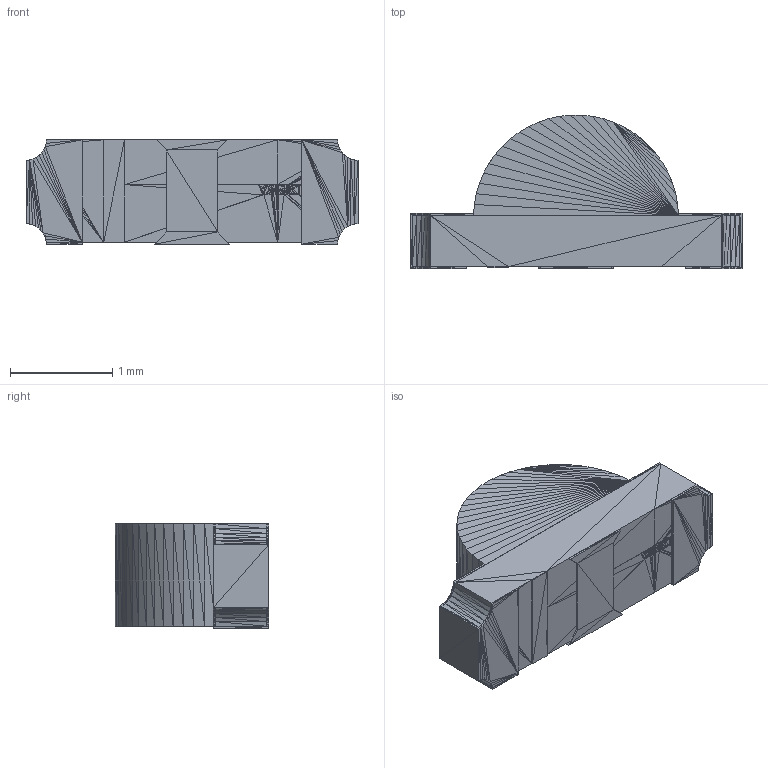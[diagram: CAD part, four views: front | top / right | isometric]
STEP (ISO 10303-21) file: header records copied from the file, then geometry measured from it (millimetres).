
FILE_DESCRIPTION(('auto-generated'),'2;1');
FILE_SCHEMA(('CONFIG_CONTROL_DESIGN'));
Bounding box: 3.24 x 1.5 x 1.02 mm (x, y, z)
Volume: 1.6 mm3; surface area: 26.4 mm2
Topology: 5 solids, 18 shells, 1096 faces, 1812 edges, 711 vertices
Faces by surface type: plane 1096
Entity records: 17350 total; most frequent: ORIENTED_EDGE 3277, DIRECTION 2309, EDGE_CURVE 1812, LINE 1811, VECTOR 1173, AXIS2_PLACEMENT_3D 1097, PLANE 1096, EDGE_LOOP 1096
